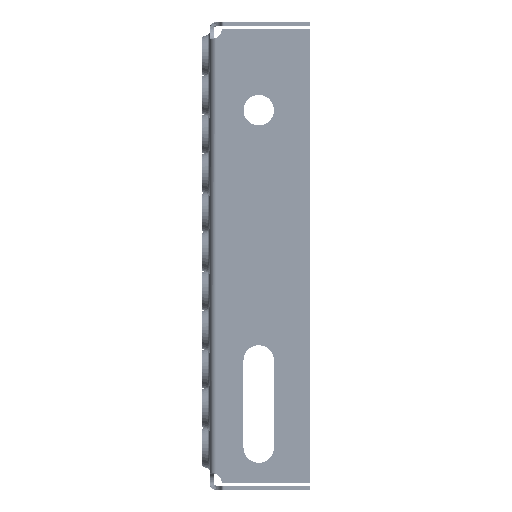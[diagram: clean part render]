
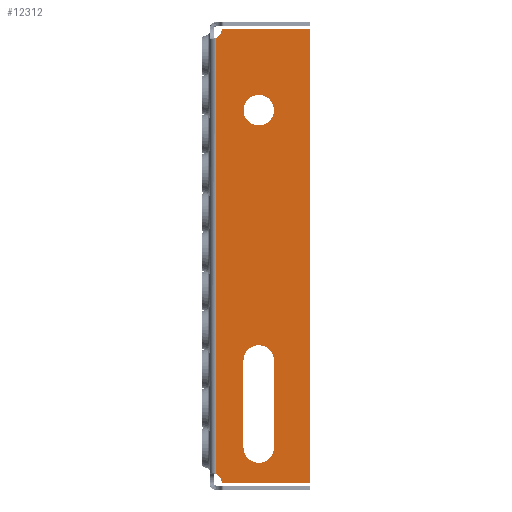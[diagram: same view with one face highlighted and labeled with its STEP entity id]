
A CAD part, left-side view. The second image highlights one B-rep face of the part: STEP entity #12312.
In plain terms, the highlighted planar face has unit normal (-1, 0, 0).
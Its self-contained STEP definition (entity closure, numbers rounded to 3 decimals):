
#357 = AXIS2_PLACEMENT_3D ( 'NONE', #17689, #2649, #20187 ) ;
#386 = DIRECTION ( 'NONE',  ( -1., 0., 0. ) ) ;
#751 = ORIENTED_EDGE ( 'NONE', *, *, #13308, .T. ) ;
#1302 = EDGE_CURVE ( 'NONE', #29432, #25062, #16505, .T. ) ;
#1721 = AXIS2_PLACEMENT_3D ( 'NONE', #14930, #32454, #17455 ) ;
#1765 = DIRECTION ( 'NONE',  ( 0., 0., 1. ) ) ;
#1798 = CARTESIAN_POINT ( 'NONE',  ( -300., -46., 104.5 ) ) ;
#1998 = DIRECTION ( 'NONE',  ( 0., 0., -1. ) ) ;
#2550 = VERTEX_POINT ( 'NONE', #23982 ) ;
#2649 = DIRECTION ( 'NONE',  ( -1., 0., 0. ) ) ;
#2786 = FACE_BOUND ( 'NONE', #21228, .T. ) ;
#2982 = VECTOR ( 'NONE', #5711, 1000. ) ;
#3019 = EDGE_CURVE ( 'NONE', #30134, #29432, #22927, .T. ) ;
#3110 = EDGE_CURVE ( 'NONE', #7945, #7945, #27687, .T. ) ;
#3273 = LINE ( 'NONE', #7041, #9920 ) ;
#3309 = EDGE_CURVE ( 'NONE', #25062, #14975, #9634, .T. ) ;
#3488 = EDGE_CURVE ( 'NONE', #2550, #18834, #24137, .T. ) ;
#3932 = ORIENTED_EDGE ( 'NONE', *, *, #8151, .T. ) ;
#4023 = DIRECTION ( 'NONE',  ( 0., 0., -1. ) ) ;
#4361 = CIRCLE ( 'NONE', #20393, 7. ) ;
#4490 = VECTOR ( 'NONE', #7432, 1000. ) ;
#4815 = VERTEX_POINT ( 'NONE', #1798 ) ;
#5543 = DIRECTION ( 'NONE',  ( 0., 0., -1. ) ) ;
#5711 = DIRECTION ( 'NONE',  ( 0., -1., 0. ) ) ;
#6632 = CARTESIAN_POINT ( 'NONE',  ( -300., -15.5, -48. ) ) ;
#7041 = CARTESIAN_POINT ( 'NONE',  ( -300., -46., 104.5 ) ) ;
#7432 = DIRECTION ( 'NONE',  ( 0., 0., 1. ) ) ;
#7629 = ORIENTED_EDGE ( 'NONE', *, *, #13918, .F. ) ;
#7945 = VERTEX_POINT ( 'NONE', #24016 ) ;
#8151 = EDGE_CURVE ( 'NONE', #4815, #11101, #3273, .T. ) ;
#8699 = VERTEX_POINT ( 'NONE', #19089 ) ;
#9273 = ORIENTED_EDGE ( 'NONE', *, *, #19593, .T. ) ;
#9383 = CIRCLE ( 'NONE', #23990, 1. ) ;
#9446 = FACE_BOUND ( 'NONE', #14287, .T. ) ;
#9634 = LINE ( 'NONE', #30805, #2982 ) ;
#9920 = VECTOR ( 'NONE', #22057, 1000. ) ;
#10476 = DIRECTION ( 'NONE',  ( 1., 0., 0. ) ) ;
#10521 = VECTOR ( 'NONE', #4023, 1000. ) ;
#11101 = VERTEX_POINT ( 'NONE', #27268 ) ;
#12121 = DIRECTION ( 'NONE',  ( -1., 0., 0. ) ) ;
#12169 = VERTEX_POINT ( 'NONE', #12587 ) ;
#12274 = CARTESIAN_POINT ( 'NONE',  ( -300., -3., -110.416 ) ) ;
#12280 = EDGE_CURVE ( 'NONE', #14127, #8699, #4361, .T. ) ;
#12312 = ADVANCED_FACE ( 'NONE', ( #23577, #2786, #9446 ), #18068, .F. ) ;
#12587 = CARTESIAN_POINT ( 'NONE',  ( -300., -3., 100.17 ) ) ;
#13308 = EDGE_CURVE ( 'NONE', #11101, #26790, #9383, .T. ) ;
#13851 = ORIENTED_EDGE ( 'NONE', *, *, #3488, .F. ) ;
#13918 = EDGE_CURVE ( 'NONE', #18834, #14127, #29737, .T. ) ;
#14039 = DIRECTION ( 'NONE',  ( -1., 0., 0. ) ) ;
#14127 = VERTEX_POINT ( 'NONE', #14986 ) ;
#14287 = EDGE_LOOP ( 'NONE', ( #7629, #13851, #15577, #16433 ) ) ;
#14327 = CIRCLE ( 'NONE', #1721, 5. ) ;
#14665 = LINE ( 'NONE', #32132, #27986 ) ;
#14743 = CARTESIAN_POINT ( 'NONE',  ( -300., -3., -100.17 ) ) ;
#14930 = CARTESIAN_POINT ( 'NONE',  ( -300., -0.5, 104.5 ) ) ;
#14975 = VERTEX_POINT ( 'NONE', #26206 ) ;
#14986 = CARTESIAN_POINT ( 'NONE',  ( -300., -15.5, -88. ) ) ;
#15433 = CARTESIAN_POINT ( 'NONE',  ( -300., -22.5, -88. ) ) ;
#15577 = ORIENTED_EDGE ( 'NONE', *, *, #17421, .F. ) ;
#16186 = EDGE_CURVE ( 'NONE', #30134, #12169, #17850, .T. ) ;
#16433 = ORIENTED_EDGE ( 'NONE', *, *, #12280, .F. ) ;
#16505 = CIRCLE ( 'NONE', #26232, 1. ) ;
#16788 = DIRECTION ( 'NONE',  ( -1., 0., 0. ) ) ;
#17026 = DIRECTION ( 'NONE',  ( 1., 0., 0. ) ) ;
#17421 = EDGE_CURVE ( 'NONE', #8699, #2550, #14665, .T. ) ;
#17455 = DIRECTION ( 'NONE',  ( 0., 0., -1. ) ) ;
#17689 = CARTESIAN_POINT ( 'NONE',  ( -300., -22.5, 67. ) ) ;
#17850 = LINE ( 'NONE', #12274, #4490 ) ;
#17958 = DIRECTION ( 'NONE',  ( 0., 0., -1. ) ) ;
#18068 = PLANE ( 'NONE',  #30469 ) ;
#18438 = LINE ( 'NONE', #21733, #27422 ) ;
#18834 = VERTEX_POINT ( 'NONE', #6632 ) ;
#19089 = CARTESIAN_POINT ( 'NONE',  ( -300., -29.5, -88. ) ) ;
#19493 = AXIS2_PLACEMENT_3D ( 'NONE', #32027, #17026, #1998 ) ;
#19593 = EDGE_CURVE ( 'NONE', #26790, #12169, #14327, .T. ) ;
#19835 = ORIENTED_EDGE ( 'NONE', *, *, #1302, .T. ) ;
#20187 = DIRECTION ( 'NONE',  ( 0., 0., -1. ) ) ;
#20393 = AXIS2_PLACEMENT_3D ( 'NONE', #15433, #386, #17958 ) ;
#20563 = CARTESIAN_POINT ( 'NONE',  ( -300., 0.5, -110.416 ) ) ;
#21228 = EDGE_LOOP ( 'NONE', ( #30329 ) ) ;
#21733 = CARTESIAN_POINT ( 'NONE',  ( -300., -46., -104.5 ) ) ;
#21877 = CARTESIAN_POINT ( 'NONE',  ( -300., -6.416, -104.5 ) ) ;
#22057 = DIRECTION ( 'NONE',  ( 0., 1., 0. ) ) ;
#22104 = CARTESIAN_POINT ( 'NONE',  ( -300., -5.43, -103.667 ) ) ;
#22927 = CIRCLE ( 'NONE', #19493, 5. ) ;
#23577 = FACE_OUTER_BOUND ( 'NONE', #29658, .T. ) ;
#23600 = EDGE_CURVE ( 'NONE', #14975, #4815, #18438, .T. ) ;
#23982 = CARTESIAN_POINT ( 'NONE',  ( -300., -29.5, -48. ) ) ;
#23990 = AXIS2_PLACEMENT_3D ( 'NONE', #31791, #16788, #1765 ) ;
#24016 = CARTESIAN_POINT ( 'NONE',  ( -300., -22.5, 60. ) ) ;
#24137 = CIRCLE ( 'NONE', #24922, 7. ) ;
#24922 = AXIS2_PLACEMENT_3D ( 'NONE', #29042, #14039, #31561 ) ;
#25062 = VERTEX_POINT ( 'NONE', #21877 ) ;
#26206 = CARTESIAN_POINT ( 'NONE',  ( -300., -46., -104.5 ) ) ;
#26232 = AXIS2_PLACEMENT_3D ( 'NONE', #27111, #12121, #29634 ) ;
#26480 = CARTESIAN_POINT ( 'NONE',  ( -300., -15.5, -48. ) ) ;
#26716 = ORIENTED_EDGE ( 'NONE', *, *, #23600, .T. ) ;
#26772 = DIRECTION ( 'NONE',  ( 0., 0., 1. ) ) ;
#26790 = VERTEX_POINT ( 'NONE', #28810 ) ;
#27111 = CARTESIAN_POINT ( 'NONE',  ( -300., -6.416, -103.5 ) ) ;
#27184 = DIRECTION ( 'NONE',  ( 0., 0., 1. ) ) ;
#27268 = CARTESIAN_POINT ( 'NONE',  ( -300., -6.416, 104.5 ) ) ;
#27422 = VECTOR ( 'NONE', #26772, 1000. ) ;
#27687 = CIRCLE ( 'NONE', #357, 7. ) ;
#27986 = VECTOR ( 'NONE', #27184, 1000. ) ;
#28810 = CARTESIAN_POINT ( 'NONE',  ( -300., -5.43, 103.667 ) ) ;
#29042 = CARTESIAN_POINT ( 'NONE',  ( -300., -22.5, -48. ) ) ;
#29432 = VERTEX_POINT ( 'NONE', #22104 ) ;
#29615 = ORIENTED_EDGE ( 'NONE', *, *, #3309, .T. ) ;
#29634 = DIRECTION ( 'NONE',  ( 0., 0., -1. ) ) ;
#29658 = EDGE_LOOP ( 'NONE', ( #30107, #30610, #19835, #29615, #26716, #3932, #751, #9273 ) ) ;
#29737 = LINE ( 'NONE', #26480, #10521 ) ;
#30107 = ORIENTED_EDGE ( 'NONE', *, *, #16186, .F. ) ;
#30134 = VERTEX_POINT ( 'NONE', #14743 ) ;
#30329 = ORIENTED_EDGE ( 'NONE', *, *, #3110, .F. ) ;
#30469 = AXIS2_PLACEMENT_3D ( 'NONE', #20563, #10476, #5543 ) ;
#30610 = ORIENTED_EDGE ( 'NONE', *, *, #3019, .T. ) ;
#30805 = CARTESIAN_POINT ( 'NONE',  ( -300., -6.416, -104.5 ) ) ;
#31561 = DIRECTION ( 'NONE',  ( 0., 0., -1. ) ) ;
#31791 = CARTESIAN_POINT ( 'NONE',  ( -300., -6.416, 103.5 ) ) ;
#32027 = CARTESIAN_POINT ( 'NONE',  ( -300., -0.5, -104.5 ) ) ;
#32132 = CARTESIAN_POINT ( 'NONE',  ( -300., -29.5, -48. ) ) ;
#32454 = DIRECTION ( 'NONE',  ( 1., 0., 0. ) ) ;
